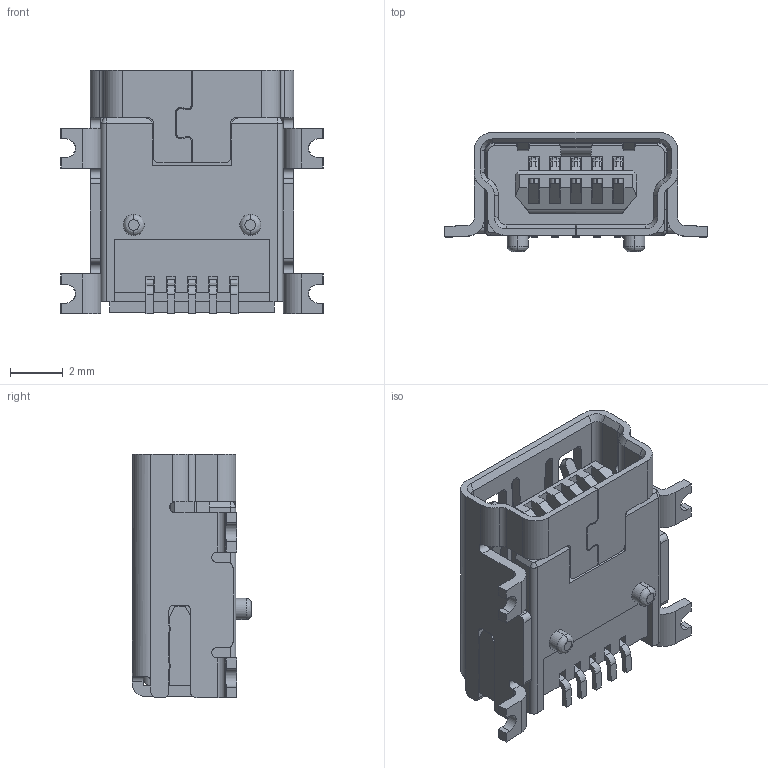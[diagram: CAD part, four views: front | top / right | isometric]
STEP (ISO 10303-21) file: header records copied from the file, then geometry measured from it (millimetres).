
FILE_DESCRIPTION((''),'2;1');
FILE_NAME('MINI-USB_1030501AX00X_ASM','2018-11-20T',('Administrator'),(''),'PRO/ENGINEER BY PARAMETRIC TECHNOLOGY CORPORATION, 2010280','PRO/ENGINEER BY PARAMETRIC TECHNOLOGY CORPORATION, 2010280','');
FILE_SCHEMA(('CONFIG_CONTROL_DESIGN'));
Length unit declared in the file: millimetre
Products named in the file (9): PP101C0040_47; MANIFOLD_SOLID_BREP_9499; MANIFOLD_SOLID_BREP_11641; MANIFOLD_SOLID_BREP_13783; MANIFOLD_SOLID_BREP_15925; MANIFOLD_SOLID_BREP_18067; CONTACT_20_ASM; SHELL_4; MINI-USB_1030501AX00X_ASM
Assembly tree (8 placements, depth 3):
  MINI-USB_1030501AX00X_ASM
    PP101C0040_47
    CONTACT_20_ASM
      MANIFOLD_SOLID_BREP_9499
      MANIFOLD_SOLID_BREP_11641
      MANIFOLD_SOLID_BREP_13783
      MANIFOLD_SOLID_BREP_15925
      MANIFOLD_SOLID_BREP_18067
    SHELL_4
Bounding box: 9.93 x 4.5 x 9.21 mm (x, y, z)
Volume: 135.5 mm3; surface area: 780.1 mm2
Topology: 7 solids, 7 shells, 843 faces, 2426 edges, 1578 vertices
Faces by surface type: plane 602, cylinder 215, cone 22, bspline 4
Entity records: 27971 total; most frequent: CARTESIAN_POINT 5434, ORIENTED_EDGE 4852, DIRECTION 4490, EDGE_CURVE 2426, VECTOR 1906, LINE 1906, VERTEX_POINT 1578, AXIS2_PLACEMENT_3D 1292
